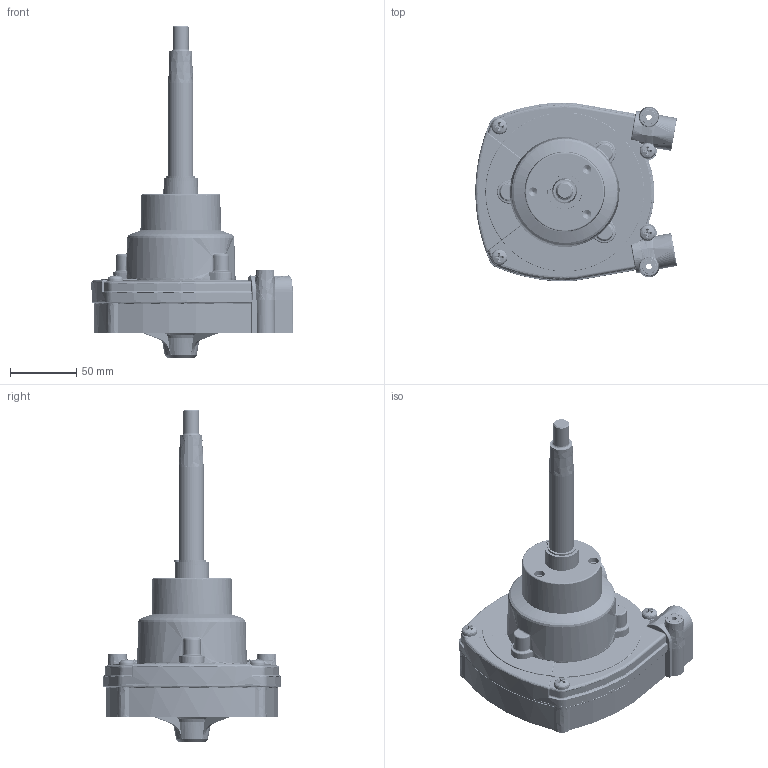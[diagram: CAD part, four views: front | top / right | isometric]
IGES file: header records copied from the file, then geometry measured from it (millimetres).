
Global section: file name: T73 Helm; native system: Autodesk Inventor 2016; preprocessor: unknown; author: Campagna; date: 20150922.103217; units: millimetre
Bounding box: 152.55 x 135.4 x 251.4 mm (x, y, z)
Volume: 609496 mm3; surface area: 270152.9 mm2
Topology: 27 solids, 27 shells, 5486 faces, 14714 edges, 9446 vertices
Faces by surface type: bspline 5486
